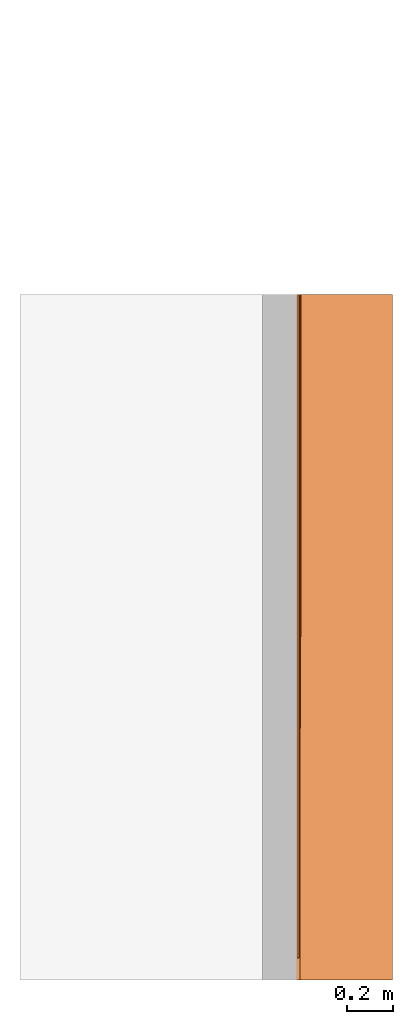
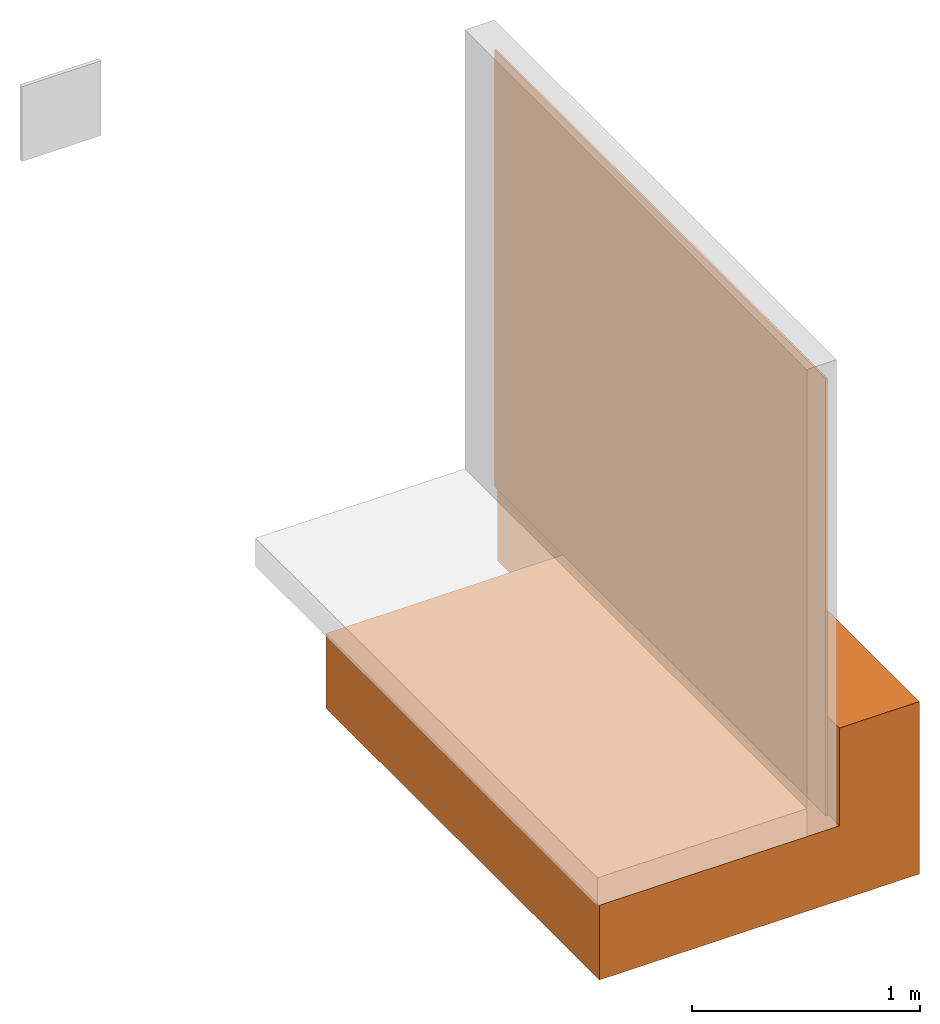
# One storey, part 2 of 2: 1 proxy.
"""IFC2X3 building model written with IfcOpenShell, lengths in metres."""

from ifc_helpers import new_model, entity, si_unit, converted_unit, derived_unit, direction, frame, frame_2d, origin, origin_2d_with_axis, place, context, subcontext, project, spatial, polyline, circle_curve, parameter, trimmed, segment, composite_curve, rectangle, outline, extrude, source, transform, mapped, material, material_list, type_object, type_shapes, element, save


model = new_model("IFC2X3")

# Units and contexts
model_context = context("Model", 3, precision=1e-05, world=origin(), true_north=direction((6.123031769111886e-17, 1.0)))
body_context = subcontext(model_context, "Body", "Model", "MODEL_VIEW")
ifc_project = project(units=[si_unit("LENGTHUNIT", "METRE"), si_unit("AREAUNIT", "SQUARE_METRE"), si_unit("VOLUMEUNIT", "CUBIC_METRE"), converted_unit("PLANEANGLEUNIT", "DEGREE", entity("IfcRatioMeasure", 0.017453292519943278), si_unit("PLANEANGLEUNIT", "RADIAN"), dimensions=[0, 0, 0, 0, 0, 0, 0]), si_unit("MASSUNIT", "GRAM", prefix="KILO"), derived_unit("MASSDENSITYUNIT", [(si_unit("MASSUNIT", "GRAM", prefix="KILO"), 1), (si_unit("LENGTHUNIT", "METRE"), -3)]), derived_unit("IONCONCENTRATIONUNIT", [(si_unit("MASSUNIT", "GRAM", prefix="KILO"), 1), (si_unit("LENGTHUNIT", "METRE"), -3)]), derived_unit("MOMENTOFINERTIAUNIT", [(si_unit("LENGTHUNIT", "METRE"), 4)]), si_unit("TIMEUNIT", "SECOND"), si_unit("FREQUENCYUNIT", "HERTZ"), si_unit("THERMODYNAMICTEMPERATUREUNIT", "DEGREE_CELSIUS"), derived_unit("THERMALTRANSMITTANCEUNIT", [(si_unit("MASSUNIT", "GRAM", prefix="KILO"), 1), (si_unit("THERMODYNAMICTEMPERATUREUNIT", "KELVIN"), -1), (si_unit("TIMEUNIT", "SECOND"), -3)]), derived_unit("THERMALCONDUCTANCEUNIT", [(si_unit("MASSUNIT", "GRAM", prefix="KILO"), 1), (si_unit("THERMODYNAMICTEMPERATUREUNIT", "KELVIN"), -1), (si_unit("TIMEUNIT", "SECOND"), -3), (si_unit("LENGTHUNIT", "METRE"), 1)]), derived_unit("VOLUMETRICFLOWRATEUNIT", [(si_unit("LENGTHUNIT", "METRE"), 3), (si_unit("TIMEUNIT", "SECOND"), -1)]), derived_unit("MASSFLOWRATEUNIT", [(si_unit("MASSUNIT", "GRAM", prefix="KILO"), 1), (si_unit("TIMEUNIT", "SECOND"), -1)]), derived_unit("ROTATIONALFREQUENCYUNIT", [(si_unit("TIMEUNIT", "SECOND"), -1)]), si_unit("ELECTRICCURRENTUNIT", "AMPERE"), si_unit("ELECTRICVOLTAGEUNIT", "VOLT"), si_unit("POWERUNIT", "WATT"), si_unit("FORCEUNIT", "NEWTON", prefix="KILO"), si_unit("ILLUMINANCEUNIT", "LUX"), si_unit("LUMINOUSFLUXUNIT", "LUMEN"), si_unit("LUMINOUSINTENSITYUNIT", "CANDELA"), derived_unit("USERDEFINED", [(si_unit("MASSUNIT", "GRAM", prefix="KILO"), -1), (si_unit("LENGTHUNIT", "METRE"), -2), (si_unit("TIMEUNIT", "SECOND"), 3), (si_unit("LUMINOUSFLUXUNIT", "LUMEN"), 1)]), derived_unit("USERDEFINED", [(si_unit("MASSUNIT", "GRAM", prefix="KILO"), 1), (si_unit("TIMEUNIT", "SECOND"), -3), (si_unit("LENGTHUNIT", "METRE"), 3), (si_unit("ELECTRICCURRENTUNIT", "AMPERE"), -2)]), derived_unit("SOUNDPOWERUNIT", [(si_unit("MASSUNIT", "GRAM", prefix="KILO"), 1), (si_unit("TIMEUNIT", "SECOND"), -3), (si_unit("LENGTHUNIT", "METRE"), 2)]), derived_unit("SOUNDPRESSUREUNIT", [(si_unit("MASSUNIT", "GRAM", prefix="KILO"), 1), (si_unit("LENGTHUNIT", "METRE"), -1), (si_unit("TIMEUNIT", "SECOND"), -2)]), derived_unit("LINEARVELOCITYUNIT", [(si_unit("LENGTHUNIT", "METRE"), 1), (si_unit("TIMEUNIT", "SECOND"), -1)]), si_unit("PRESSUREUNIT", "PASCAL"), derived_unit("USERDEFINED", [(si_unit("MASSUNIT", "GRAM", prefix="KILO"), 1), (si_unit("LENGTHUNIT", "METRE"), -2), (si_unit("TIMEUNIT", "SECOND"), -2)]), derived_unit("LINEARFORCEUNIT", [(si_unit("MASSUNIT", "GRAM", prefix="KILO"), 1), (si_unit("TIMEUNIT", "SECOND"), -2)]), derived_unit("PLANARFORCEUNIT", [(si_unit("MASSUNIT", "GRAM", prefix="KILO"), 1), (si_unit("LENGTHUNIT", "METRE"), -1), (si_unit("TIMEUNIT", "SECOND"), -2)]), derived_unit("SPECIFICHEATCAPACITYUNIT", [(si_unit("THERMODYNAMICTEMPERATUREUNIT", "KELVIN"), -1), (si_unit("LENGTHUNIT", "METRE"), 2), (si_unit("TIMEUNIT", "SECOND"), -2)]), derived_unit("HEATINGVALUEUNIT", [(si_unit("LENGTHUNIT", "METRE"), 2), (si_unit("TIMEUNIT", "SECOND"), -2)]), derived_unit("VAPORPERMEABILITYUNIT", [(si_unit("LENGTHUNIT", "METRE"), -1), (si_unit("TIMEUNIT", "SECOND"), 1)]), derived_unit("DYNAMICVISCOSITYUNIT", [(si_unit("MASSUNIT", "GRAM", prefix="KILO"), 1), (si_unit("TIMEUNIT", "SECOND"), -1), (si_unit("LENGTHUNIT", "METRE"), -1)]), derived_unit("THERMALEXPANSIONCOEFFICIENTUNIT", [(si_unit("THERMODYNAMICTEMPERATUREUNIT", "KELVIN"), -1)]), derived_unit("MODULUSOFELASTICITYUNIT", [(si_unit("MASSUNIT", "GRAM", prefix="KILO"), 1), (si_unit("LENGTHUNIT", "METRE"), -1), (si_unit("TIMEUNIT", "SECOND"), -2)]), derived_unit("ISOTHERMALMOISTURECAPACITYUNIT", [(si_unit("LENGTHUNIT", "METRE"), 3), (si_unit("MASSUNIT", "GRAM", prefix="KILO"), -1)]), derived_unit("MOISTUREDIFFUSIVITYUNIT", [(si_unit("TIMEUNIT", "SECOND"), -1), (si_unit("LENGTHUNIT", "METRE"), 2)])], contexts=[model_context])

# Site, building, storey
site_placement = place(None, origin())
site = spatial("IfcSite", under=ifc_project, at=site_placement, Name="Default", CompositionType="ELEMENT")
building_placement = place(site_placement, origin())
building = spatial("IfcBuilding", under=site, at=building_placement, CompositionType="ELEMENT")
storey_placement = place(building_placement, frame((0.0, 0.0, -0.0025237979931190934)))
storey = spatial("IfcBuildingStorey", under=building, at=storey_placement, Name="ARQ Térreo", CompositionType="ELEMENT", Elevation=-0.0025237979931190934)

# Proxy
ifc_material_1 = material(Name="#argamassa")
ifc_material_2 = material(Name="#solo")
ifc_material_3 = material(Name="#Geotextil")
ifc_material_4 = material(Name="#Primer")
ifc_material_5 = material(Name="#Torodin 4mm PP")
ifc_material_6 = material(Name="#Chapisco")
ifc_material_list = material_list([ifc_material_1, ifc_material_2, ifc_material_3, ifc_material_4, ifc_material_5, ifc_material_6])
building_element_proxy_type = type_object("IfcBuildingElementProxyType", Name="IMPER:IMPER", PredefinedType="NOTDEFINED", material=ifc_material_list)
shared_shape = source(origin(), body_context, "Body", "SweptSolid", [
    extrude(rectangle(XDim=2.903379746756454, YDim=0.010000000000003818, at=origin_2d_with_axis()), frame((-0.3469704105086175, -1.3058198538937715, -0.0025237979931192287), z_axis=(0.0, 0.0, 1.0), x_axis=(0.0, -1.0, 0.0)), (0.0, 0.0, 1.0), 2.339826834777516),
    extrude(rectangle(XDim=2.4000000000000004, YDim=1.2158489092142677, at=frame_2d((-1.1102230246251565e-16, 0.0), x_axis=(1.0, 0.0))), frame((-0.9448559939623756, -1.6541299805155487, -0.402523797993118), z_axis=(0.0, 0.0, 1.0), x_axis=(0.0, 1.0, 0.0)), (0.0, 0.0, 1.0), 0.4000000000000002),
    extrude(rectangle(XDim=2.999999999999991, YDim=0.4039724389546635, at=frame_2d((-1.1102230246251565e-16, 0.0), x_axis=(1.0, 0.0))), frame((-0.1349453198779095, -1.3541299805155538, -0.40252379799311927), z_axis=(0.0, 0.0, 1.0), x_axis=(0.0, 1.0, 0.0)), (0.0, 0.0, 1.0), 0.9233418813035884),
    extrude(outline(composite_curve([segment(polyline([(-0.008387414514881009, -0.8529182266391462), (-0.005387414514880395, -0.8529182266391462)]), True, "CONTINUOUS"), segment(polyline([(-0.005387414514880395, -0.8529182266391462), (-0.005387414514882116, 0.21322955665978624)]), True, "CONTINUOUS"), segment(trimmed(circle_curve(frame_2d((0.0016125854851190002, 0.2132295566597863), x_axis=(1.0, 0.0)), 0.007000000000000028), [parameter(3.053332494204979e-13)], [parameter(180.00000000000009)], True, "PARAMETER"), False, "CONTINUOUS"), segment(trimmed(circle_curve(frame_2d((0.005091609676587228, 0.2132295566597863), x_axis=(1.0, 0.0)), 0.0035209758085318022), [parameter(179.99999999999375)], [parameter(8.651108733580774e-13)], True, "PARAMETER"), False, "CONTINUOUS"), segment(trimmed(circle_curve(frame_2d((0.0018311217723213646, 0.21322955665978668), x_axis=(1.0, 0.0)), 0.00026048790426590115), [parameter(359.9999999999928)], [parameter(180.00000000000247)], True, "PARAMETER"), False, "CONTINUOUS"), segment(polyline([(0.002091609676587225, 0.21322955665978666), (0.005091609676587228, 0.21322955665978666)]), True, "CONTINUOUS"), segment(trimmed(circle_curve(frame_2d((0.0018311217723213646, 0.21322955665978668), x_axis=(1.0, 0.0)), 0.003260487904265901), [parameter(359.99999999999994)], [parameter(179.99999999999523)], True, "PARAMETER"), True, "CONTINUOUS"), segment(trimmed(circle_curve(frame_2d((0.005091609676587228, 0.2132295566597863), x_axis=(1.0, 0.0)), 0.006520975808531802), [parameter(179.9999999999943)], [parameter(1.0177774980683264e-12)], True, "PARAMETER"), True, "CONTINUOUS"), segment(trimmed(circle_curve(frame_2d((0.0016125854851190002, 0.2132295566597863), x_axis=(1.0, 0.0)), 0.010000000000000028), [parameter(7.124442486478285e-13)], [parameter(179.99999999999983)], True, "PARAMETER"), True, "CONTINUOUS"), segment(polyline([(-0.008387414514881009, 0.21322955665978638), (-0.008387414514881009, -0.8529182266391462)]), True, "CONTINUOUS")], self_intersect=False)), frame((-0.32757168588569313, -1.3541299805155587, 0.21070575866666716), z_axis=(0.0, 1.0, 0.0), x_axis=(1.0, 0.0, 0.0)), (0.0, 0.0, 1.0), 1.5000000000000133),
    extrude(rectangle(XDim=0.0010388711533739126, YDim=2.7000000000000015, at=frame_2d((-3.3881317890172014e-17, 0.0), x_axis=(1.0, 0.0))), frame((-0.34145097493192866, -1.2041299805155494, -0.0025237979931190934), z_axis=(0.0, 0.0, 1.0), x_axis=(-1.0, 0.0, 0.0)), (0.0, 0.0, 1.0), 2.1813853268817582),
    extrude(rectangle(XDim=0.003999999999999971, YDim=2.4000000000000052, at=frame_2d((-3.382710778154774e-17, 0.0), x_axis=(1.0, 0.0))), frame((-0.33893153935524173, -1.054129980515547, -0.0025237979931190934), z_axis=(0.0, 0.0, 1.0), x_axis=(-1.0, 0.0, 0.0)), (0.0, 0.0, 1.0), 1.965708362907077),
    extrude(rectangle(XDim=0.0009724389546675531, YDim=1.9000000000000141, at=frame_2d((-3.382710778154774e-17, 0.0), x_axis=(1.0, 0.0))), frame((-0.33644531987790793, -0.8041299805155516, -0.0025237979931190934), z_axis=(0.0, 0.0, 1.0), x_axis=(-1.0, 0.0, 0.0)), (0.0, 0.0, 1.0), 1.5481528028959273),
])
type_shapes(building_element_proxy_type, [shared_shape])
proxy_placement = place(storey_placement, frame((0.0, 0.0, 0.0025237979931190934)))
element("IfcBuildingElementProxy", 1, at=proxy_placement, inside=storey, type_object=building_element_proxy_type, material=ifc_material_list, Name="IMPER:IMPER:IMPER : IMPER:IMPER", ObjectType="IMPER:IMPER:IMPER : IMPER:IMPER", context=body_context, shape_type="MappedRepresentation", body=[
    mapped(shared_shape, transform((0.0, 0.0, 0.0), scale=1.0)),
])

save(model, "model.ifc")
